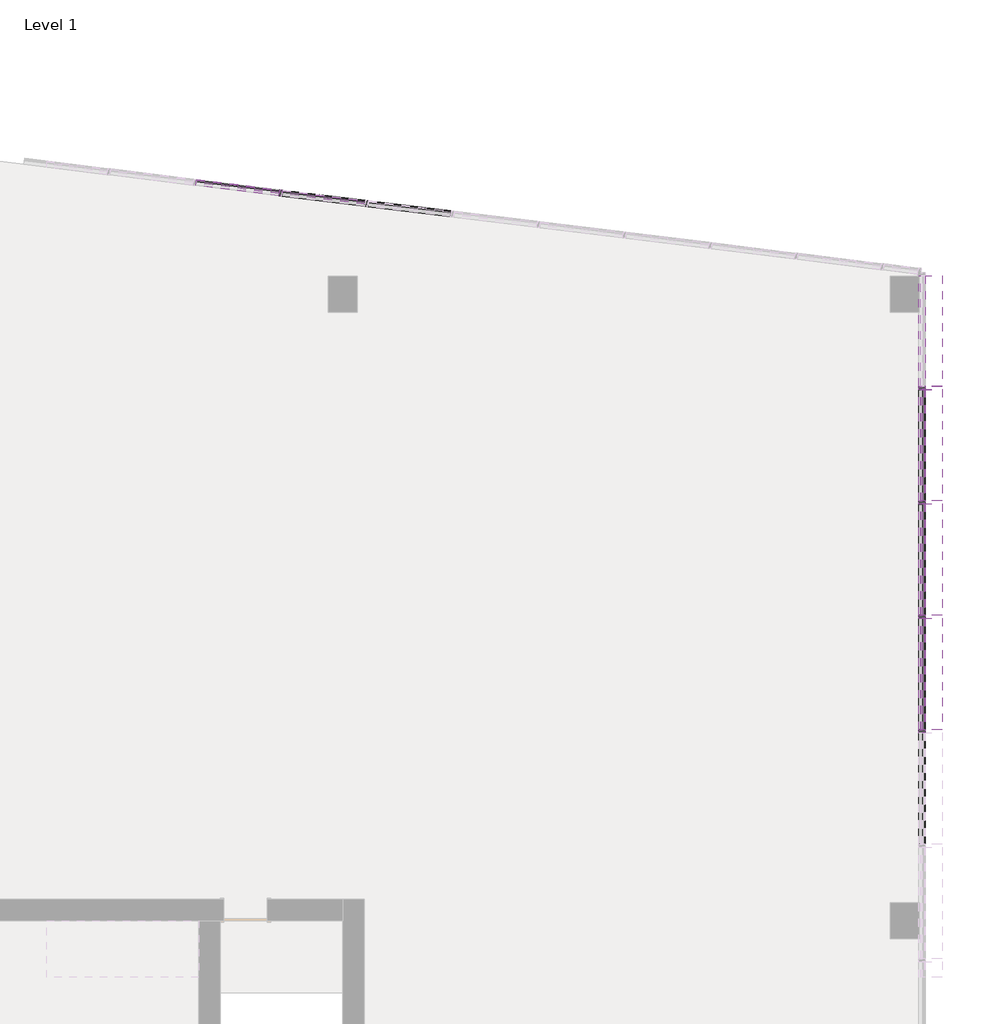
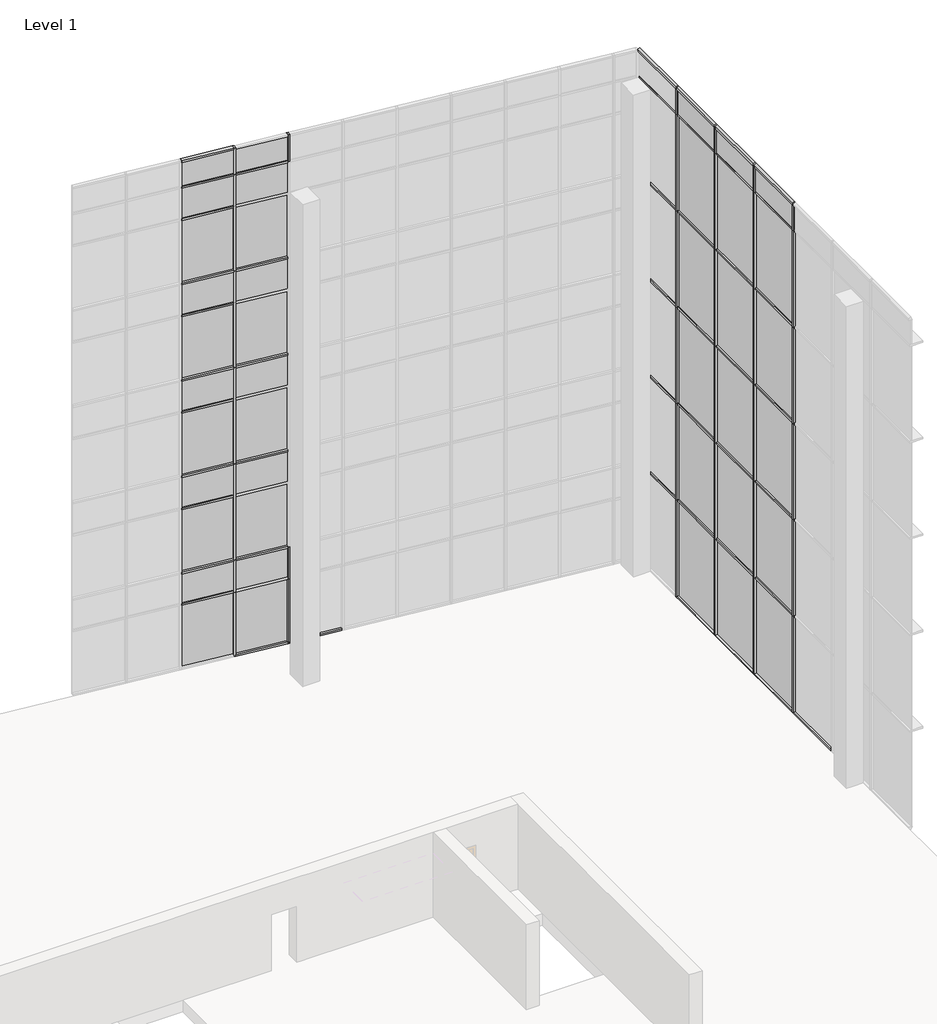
# One storey, part 20 of 23: 80 members, 40 plates.
"""IFC4 building model written with IfcOpenShell, lengths in millimetres."""

from ifc_helpers import new_model, si_unit, origin, place, context, project, spatial, transform, mapped, element, save
from components import member_4178592a, member_eccb456b, member_ad65018b, member_a26b4311, member_2b49869a, member_f92b8aa2, member_810865a4, member_f0fea5a5, member_6d5c3e5e, member_90793d7c, member_64b167af, member_9764dd38, system_panel_glazed_14c75400, system_panel_glazed_bb983545, system_panel_solid_5dfe6f83, system_panel_solid_e25e2004, system_panel_solid_b7551183, system_panel_solid_a8b18003

model = new_model("IFC4")

# Units and contexts
model_context = context("Model", 3, world=origin())
ifc_project = project(units=[si_unit("LENGTHUNIT", "METRE", prefix="MILLI")], contexts=[model_context])

# Site, building, storey
site = spatial("IfcSite", under=ifc_project)
building = spatial("IfcBuilding", under=site)
storey = spatial("IfcBuildingStorey", under=building, Name="Level 1", Elevation=0.0)

# Members
placement = place(None, origin())
member_shape = member_4178592a(model_context)
element("IfcMember", 1, ObjectType="Quad Corner Mullion : 5\" x 5\" Quad Corner", at=placement, inside=storey, context=model_context, shape_type="MappedRepresentation", body=[
    mapped(member_shape, transform((15106.8054088, 334.8243564, 19304.0), x_axis=(0.0, 0.0, 1.0), y_axis=(-1.0, 0.0, 0.0), z_axis=(0.0, -1.0, 0.0))),
])
element("IfcMember", 2, ObjectType="Quad Corner Mullion : 5\" x 5\" Quad Corner", at=placement, inside=storey, context=model_context, shape_type="MappedRepresentation", body=[
    mapped(member_shape, transform((15106.8054088, 2752.982224, 19304.0), x_axis=(0.0, 0.0, 1.0), y_axis=(-1.0, 0.0, 0.0), z_axis=(0.0, -1.0, 0.0))),
])
element("IfcMember", 3, ObjectType="Quad Corner Mullion : 5\" x 5\" Quad Corner", at=placement, inside=storey, context=model_context, shape_type="MappedRepresentation", body=[
    mapped(member_shape, transform((15106.8054088, 5171.1400916, 19304.0), x_axis=(0.0, 0.0, 1.0), y_axis=(-1.0, 0.0, 0.0), z_axis=(0.0, -1.0, 0.0))),
])
member_2_shape = member_eccb456b(model_context)
element("IfcMember", 4, ObjectType="Quad Corner Mullion : 5\" x 5\" Quad Corner", at=placement, inside=storey, context=model_context, shape_type="MappedRepresentation", body=[
    mapped(member_2_shape, transform((15106.8054088, 7589.2979592, 19304.0), x_axis=(0.0, 0.0, 1.0), y_axis=(-1.0, 0.0, 0.0), z_axis=(0.0, -1.0, 0.0))),
])
element("IfcMember", 5, ObjectType="Quad Corner Mullion : 5\" x 5\" Quad Corner", at=placement, inside=storey, context=model_context, shape_type="MappedRepresentation", body=[
    mapped(member_shape, transform((15106.8054088, 271.3243564, 0.0), x_axis=(0.0, 0.0, -1.0), y_axis=(-1.0, 0.0, 0.0), z_axis=(0.0, 1.0, 0.0))),
])
element("IfcMember", 6, ObjectType="Quad Corner Mullion : 5\" x 5\" Quad Corner", at=placement, inside=storey, context=model_context, shape_type="MappedRepresentation", body=[
    mapped(member_shape, transform((15106.8054088, 2689.482224, 0.0), x_axis=(0.0, 0.0, -1.0), y_axis=(-1.0, 0.0, 0.0), z_axis=(0.0, 1.0, 0.0))),
])
element("IfcMember", 7, ObjectType="Quad Corner Mullion : 5\" x 5\" Quad Corner", at=placement, inside=storey, context=model_context, shape_type="MappedRepresentation", body=[
    mapped(member_shape, transform((15106.8054088, 5107.6400916, 0.0), x_axis=(0.0, 0.0, -1.0), y_axis=(-1.0, 0.0, 0.0), z_axis=(0.0, 1.0, 0.0))),
])
element("IfcMember", 8, ObjectType="Quad Corner Mullion : 5\" x 5\" Quad Corner", at=placement, inside=storey, context=model_context, shape_type="MappedRepresentation", body=[
    mapped(member_shape, transform((15106.8054088, 7525.7979592, 0.0), x_axis=(0.0, 0.0, -1.0), y_axis=(-1.0, 0.0, 0.0), z_axis=(0.0, 1.0, 0.0))),
])
member_3_shape = member_ad65018b(model_context)
element("IfcMember", 9, ObjectType="Rectangular Mullion : 2.5\" x 18\" rectangular", at=placement, inside=storey, context=model_context, shape_type="MappedRepresentation", body=[
    mapped(member_3_shape, transform((15106.8054088, 7589.2979592, 3666.6228811), x_axis=(0.0, 0.0, 1.0), y_axis=(-1.0, 0.0, 0.0), z_axis=(0.0, -1.0, 0.0))),
])
element("IfcMember", 10, ObjectType="Rectangular Mullion : 2.5\" x 18\" rectangular", at=placement, inside=storey, context=model_context, shape_type="MappedRepresentation", body=[
    mapped(member_3_shape, transform((15106.8054088, 7589.2979592, 7324.2228811), x_axis=(0.0, 0.0, 1.0), y_axis=(-1.0, 0.0, 0.0), z_axis=(0.0, -1.0, 0.0))),
])
element("IfcMember", 11, ObjectType="Rectangular Mullion : 2.5\" x 18\" rectangular", at=placement, inside=storey, context=model_context, shape_type="MappedRepresentation", body=[
    mapped(member_3_shape, transform((15106.8054088, 7589.2979592, 10981.8228811), x_axis=(0.0, 0.0, 1.0), y_axis=(-1.0, 0.0, 0.0), z_axis=(0.0, -1.0, 0.0))),
])
element("IfcMember", 12, ObjectType="Rectangular Mullion : 2.5\" x 18\" rectangular", at=placement, inside=storey, context=model_context, shape_type="MappedRepresentation", body=[
    mapped(member_3_shape, transform((15106.8054088, 7589.2979592, 14639.4228811), x_axis=(0.0, 0.0, 1.0), y_axis=(-1.0, 0.0, 0.0), z_axis=(0.0, -1.0, 0.0))),
])
element("IfcMember", 13, ObjectType="Rectangular Mullion : 2.5\" x 18\" rectangular", at=placement, inside=storey, context=model_context, shape_type="MappedRepresentation", body=[
    mapped(member_3_shape, transform((15106.8054088, 7589.2979592, 18297.0228811), x_axis=(0.0, 0.0, 1.0), y_axis=(-1.0, 0.0, 0.0), z_axis=(0.0, -1.0, 0.0))),
])
member_4_shape = member_a26b4311(model_context)
element("IfcMember", 14, ObjectType="Rectangular Mullion : 2.5\" x 18\" rectangular", at=placement, inside=storey, context=model_context, shape_type="MappedRepresentation", body=[
    mapped(member_4_shape, transform((15106.8054088, 334.8243564, 3666.6228811), x_axis=(0.0, 0.0, 1.0), y_axis=(-1.0, 0.0, 0.0), z_axis=(0.0, -1.0, 0.0))),
])
element("IfcMember", 15, ObjectType="Rectangular Mullion : 2.5\" x 18\" rectangular", at=placement, inside=storey, context=model_context, shape_type="MappedRepresentation", body=[
    mapped(member_4_shape, transform((15106.8054088, 2752.982224, 3666.6228811), x_axis=(0.0, 0.0, 1.0), y_axis=(-1.0, 0.0, 0.0), z_axis=(0.0, -1.0, 0.0))),
])
element("IfcMember", 16, ObjectType="Rectangular Mullion : 2.5\" x 18\" rectangular", at=placement, inside=storey, context=model_context, shape_type="MappedRepresentation", body=[
    mapped(member_4_shape, transform((15106.8054088, 5171.1400916, 3666.6228811), x_axis=(0.0, 0.0, 1.0), y_axis=(-1.0, 0.0, 0.0), z_axis=(0.0, -1.0, 0.0))),
])
element("IfcMember", 17, ObjectType="Rectangular Mullion : 2.5\" x 18\" rectangular", at=placement, inside=storey, context=model_context, shape_type="MappedRepresentation", body=[
    mapped(member_4_shape, transform((15106.8054088, 334.8243564, 7324.2228811), x_axis=(0.0, 0.0, 1.0), y_axis=(-1.0, 0.0, 0.0), z_axis=(0.0, -1.0, 0.0))),
])
element("IfcMember", 18, ObjectType="Rectangular Mullion : 2.5\" x 18\" rectangular", at=placement, inside=storey, context=model_context, shape_type="MappedRepresentation", body=[
    mapped(member_4_shape, transform((15106.8054088, 2752.982224, 7324.2228811), x_axis=(0.0, 0.0, 1.0), y_axis=(-1.0, 0.0, 0.0), z_axis=(0.0, -1.0, 0.0))),
])
element("IfcMember", 19, ObjectType="Rectangular Mullion : 2.5\" x 18\" rectangular", at=placement, inside=storey, context=model_context, shape_type="MappedRepresentation", body=[
    mapped(member_4_shape, transform((15106.8054088, 5171.1400916, 7324.2228811), x_axis=(0.0, 0.0, 1.0), y_axis=(-1.0, 0.0, 0.0), z_axis=(0.0, -1.0, 0.0))),
])
element("IfcMember", 20, ObjectType="Rectangular Mullion : 2.5\" x 18\" rectangular", at=placement, inside=storey, context=model_context, shape_type="MappedRepresentation", body=[
    mapped(member_4_shape, transform((15106.8054088, 334.8243564, 10981.8228811), x_axis=(0.0, 0.0, 1.0), y_axis=(-1.0, 0.0, 0.0), z_axis=(0.0, -1.0, 0.0))),
])
element("IfcMember", 21, ObjectType="Rectangular Mullion : 2.5\" x 18\" rectangular", at=placement, inside=storey, context=model_context, shape_type="MappedRepresentation", body=[
    mapped(member_4_shape, transform((15106.8054088, 2752.982224, 10981.8228811), x_axis=(0.0, 0.0, 1.0), y_axis=(-1.0, 0.0, 0.0), z_axis=(0.0, -1.0, 0.0))),
])
element("IfcMember", 22, ObjectType="Rectangular Mullion : 2.5\" x 18\" rectangular", at=placement, inside=storey, context=model_context, shape_type="MappedRepresentation", body=[
    mapped(member_4_shape, transform((15106.8054088, 5171.1400916, 10981.8228811), x_axis=(0.0, 0.0, 1.0), y_axis=(-1.0, 0.0, 0.0), z_axis=(0.0, -1.0, 0.0))),
])
element("IfcMember", 23, ObjectType="Rectangular Mullion : 2.5\" x 18\" rectangular", at=placement, inside=storey, context=model_context, shape_type="MappedRepresentation", body=[
    mapped(member_4_shape, transform((15106.8054088, 334.8243564, 14639.4228811), x_axis=(0.0, 0.0, 1.0), y_axis=(-1.0, 0.0, 0.0), z_axis=(0.0, -1.0, 0.0))),
])
element("IfcMember", 24, ObjectType="Rectangular Mullion : 2.5\" x 18\" rectangular", at=placement, inside=storey, context=model_context, shape_type="MappedRepresentation", body=[
    mapped(member_4_shape, transform((15106.8054088, 2752.982224, 14639.4228811), x_axis=(0.0, 0.0, 1.0), y_axis=(-1.0, 0.0, 0.0), z_axis=(0.0, -1.0, 0.0))),
])
element("IfcMember", 25, ObjectType="Rectangular Mullion : 2.5\" x 18\" rectangular", at=placement, inside=storey, context=model_context, shape_type="MappedRepresentation", body=[
    mapped(member_4_shape, transform((15106.8054088, 5171.1400916, 14639.4228811), x_axis=(0.0, 0.0, 1.0), y_axis=(-1.0, 0.0, 0.0), z_axis=(0.0, -1.0, 0.0))),
])
element("IfcMember", 26, ObjectType="Rectangular Mullion : 2.5\" x 18\" rectangular", at=placement, inside=storey, context=model_context, shape_type="MappedRepresentation", body=[
    mapped(member_4_shape, transform((15106.8054088, 334.8243564, 18297.0228811), x_axis=(0.0, 0.0, 1.0), y_axis=(-1.0, 0.0, 0.0), z_axis=(0.0, -1.0, 0.0))),
])
element("IfcMember", 27, ObjectType="Rectangular Mullion : 2.5\" x 18\" rectangular", at=placement, inside=storey, context=model_context, shape_type="MappedRepresentation", body=[
    mapped(member_4_shape, transform((15106.8054088, 2752.982224, 18297.0228811), x_axis=(0.0, 0.0, 1.0), y_axis=(-1.0, 0.0, 0.0), z_axis=(0.0, -1.0, 0.0))),
])
element("IfcMember", 28, ObjectType="Rectangular Mullion : 2.5\" x 18\" rectangular", at=placement, inside=storey, context=model_context, shape_type="MappedRepresentation", body=[
    mapped(member_4_shape, transform((15106.8054088, 5171.1400916, 18297.0228811), x_axis=(0.0, 0.0, 1.0), y_axis=(-1.0, 0.0, 0.0), z_axis=(0.0, -1.0, 0.0))),
])
member_5_shape = member_2b49869a(model_context)
element("IfcMember", 29, ObjectType="Rectangular Mullion : 2.5\" x 5\" rectangular", at=placement, inside=storey, context=model_context, shape_type="MappedRepresentation", body=[
    mapped(member_5_shape, transform((3375.3424535, 11456.9212356, 2438.4), x_axis=(0.9925461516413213, -0.12186934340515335, 0.0), y_axis=(-0.12186934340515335, -0.9925461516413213, 0.0), z_axis=(0.0, 0.0, -1.0))),
])
element("IfcMember", 30, ObjectType="Rectangular Mullion : 2.5\" x 5\" rectangular", at=placement, inside=storey, context=model_context, shape_type="MappedRepresentation", body=[
    mapped(member_5_shape, transform((1560.1740514, 11679.7958909, 2438.4), x_axis=(0.9925461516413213, -0.12186934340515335, 0.0), y_axis=(-0.12186934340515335, -0.9925461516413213, 0.0), z_axis=(0.0, 0.0, -1.0))),
])
member_6_shape = member_f92b8aa2(model_context)
element("IfcMember", 31, ObjectType="Rectangular Mullion : 2.5\" x 5\" rectangular", at=placement, inside=storey, context=model_context, shape_type="MappedRepresentation", body=[
    mapped(member_6_shape, transform((3375.3424535, 11456.9212356, 18288.0), x_axis=(0.9925461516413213, -0.12186934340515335, 0.0), y_axis=(-0.12186934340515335, -0.9925461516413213, 0.0), z_axis=(0.0, 0.0, -1.0))),
])
element("IfcMember", 32, ObjectType="Rectangular Mullion : 2.5\" x 5\" rectangular", at=placement, inside=storey, context=model_context, shape_type="MappedRepresentation", body=[
    mapped(member_6_shape, transform((1560.1740514, 11679.7958909, 18288.0), x_axis=(0.9925461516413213, -0.12186934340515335, 0.0), y_axis=(-0.12186934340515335, -0.9925461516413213, 0.0), z_axis=(0.0, 0.0, -1.0))),
])
member_7_shape = member_810865a4(model_context)
element("IfcMember", 33, ObjectType="Rectangular Mullion : 2.5\" x 5\" rectangular", at=placement, inside=storey, context=model_context, shape_type="MappedRepresentation", body=[
    mapped(member_7_shape, transform((1560.1740514, 11679.7958909, 14630.4), x_axis=(0.9925461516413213, -0.12186934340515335, 0.0), y_axis=(-0.12186934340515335, -0.9925461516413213, 0.0), z_axis=(0.0, 0.0, -1.0))),
])
element("IfcMember", 34, ObjectType="Rectangular Mullion : 2.5\" x 5\" rectangular", at=placement, inside=storey, context=model_context, shape_type="MappedRepresentation", body=[
    mapped(member_7_shape, transform((1560.1740514, 11679.7958909, 10972.8), x_axis=(0.9925461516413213, -0.12186934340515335, 0.0), y_axis=(-0.12186934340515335, -0.9925461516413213, 0.0), z_axis=(0.0, 0.0, -1.0))),
])
element("IfcMember", 35, ObjectType="Rectangular Mullion : 2.5\" x 5\" rectangular", at=placement, inside=storey, context=model_context, shape_type="MappedRepresentation", body=[
    mapped(member_7_shape, transform((1560.1740514, 11679.7958909, 7315.2), x_axis=(0.9925461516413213, -0.12186934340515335, 0.0), y_axis=(-0.12186934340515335, -0.9925461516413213, 0.0), z_axis=(0.0, 0.0, -1.0))),
])
element("IfcMember", 36, ObjectType="Rectangular Mullion : 2.5\" x 5\" rectangular", at=placement, inside=storey, context=model_context, shape_type="MappedRepresentation", body=[
    mapped(member_7_shape, transform((1560.1740514, 11679.7958909, 3657.6), x_axis=(0.9925461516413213, -0.12186934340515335, 0.0), y_axis=(-0.12186934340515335, -0.9925461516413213, 0.0), z_axis=(0.0, 0.0, -1.0))),
])
element("IfcMember", 37, ObjectType="Rectangular Mullion : 2.5\" x 5\" rectangular", at=placement, inside=storey, context=model_context, shape_type="MappedRepresentation", body=[
    mapped(member_7_shape, transform((15106.8054088, 303.0743564, 3666.6228811), x_axis=(0.0, -1.0, 0.0), y_axis=(-1.0, 0.0, 0.0), z_axis=(0.0, 0.0, -1.0))),
])
element("IfcMember", 38, ObjectType="Rectangular Mullion : 2.5\" x 5\" rectangular", at=placement, inside=storey, context=model_context, shape_type="MappedRepresentation", body=[
    mapped(member_7_shape, transform((15106.8054088, 5139.3900916, 3666.6228811), x_axis=(0.0, -1.0, 0.0), y_axis=(-1.0, 0.0, 0.0), z_axis=(0.0, 0.0, -1.0))),
])
element("IfcMember", 39, ObjectType="Rectangular Mullion : 2.5\" x 5\" rectangular", at=placement, inside=storey, context=model_context, shape_type="MappedRepresentation", body=[
    mapped(member_7_shape, transform((15106.8054088, 7557.5479592, 3666.6228811), x_axis=(0.0, -1.0, 0.0), y_axis=(-1.0, 0.0, 0.0), z_axis=(0.0, 0.0, -1.0))),
])
element("IfcMember", 40, ObjectType="Rectangular Mullion : 2.5\" x 5\" rectangular", at=placement, inside=storey, context=model_context, shape_type="MappedRepresentation", body=[
    mapped(member_7_shape, transform((15106.8054088, 2721.232224, 3666.6228811), x_axis=(0.0, -1.0, 0.0), y_axis=(-1.0, 0.0, 0.0), z_axis=(0.0, 0.0, -1.0))),
])
element("IfcMember", 41, ObjectType="Rectangular Mullion : 2.5\" x 5\" rectangular", at=placement, inside=storey, context=model_context, shape_type="MappedRepresentation", body=[
    mapped(member_7_shape, transform((15106.8054088, 303.0743564, 7324.2228811), x_axis=(0.0, -1.0, 0.0), y_axis=(-1.0, 0.0, 0.0), z_axis=(0.0, 0.0, -1.0))),
])
element("IfcMember", 42, ObjectType="Rectangular Mullion : 2.5\" x 5\" rectangular", at=placement, inside=storey, context=model_context, shape_type="MappedRepresentation", body=[
    mapped(member_7_shape, transform((15106.8054088, 5139.3900916, 7324.2228811), x_axis=(0.0, -1.0, 0.0), y_axis=(-1.0, 0.0, 0.0), z_axis=(0.0, 0.0, -1.0))),
])
element("IfcMember", 43, ObjectType="Rectangular Mullion : 2.5\" x 5\" rectangular", at=placement, inside=storey, context=model_context, shape_type="MappedRepresentation", body=[
    mapped(member_7_shape, transform((15106.8054088, 7557.5479592, 7324.2228811), x_axis=(0.0, -1.0, 0.0), y_axis=(-1.0, 0.0, 0.0), z_axis=(0.0, 0.0, -1.0))),
])
element("IfcMember", 44, ObjectType="Rectangular Mullion : 2.5\" x 5\" rectangular", at=placement, inside=storey, context=model_context, shape_type="MappedRepresentation", body=[
    mapped(member_7_shape, transform((15106.8054088, 2721.232224, 7324.2228811), x_axis=(0.0, -1.0, 0.0), y_axis=(-1.0, 0.0, 0.0), z_axis=(0.0, 0.0, -1.0))),
])
element("IfcMember", 45, ObjectType="Rectangular Mullion : 2.5\" x 5\" rectangular", at=placement, inside=storey, context=model_context, shape_type="MappedRepresentation", body=[
    mapped(member_7_shape, transform((15106.8054088, 303.0743564, 10981.8228811), x_axis=(0.0, -1.0, 0.0), y_axis=(-1.0, 0.0, 0.0), z_axis=(0.0, 0.0, -1.0))),
])
element("IfcMember", 46, ObjectType="Rectangular Mullion : 2.5\" x 5\" rectangular", at=placement, inside=storey, context=model_context, shape_type="MappedRepresentation", body=[
    mapped(member_7_shape, transform((15106.8054088, 5139.3900916, 10981.8228811), x_axis=(0.0, -1.0, 0.0), y_axis=(-1.0, 0.0, 0.0), z_axis=(0.0, 0.0, -1.0))),
])
element("IfcMember", 47, ObjectType="Rectangular Mullion : 2.5\" x 5\" rectangular", at=placement, inside=storey, context=model_context, shape_type="MappedRepresentation", body=[
    mapped(member_7_shape, transform((15106.8054088, 7557.5479592, 10981.8228811), x_axis=(0.0, -1.0, 0.0), y_axis=(-1.0, 0.0, 0.0), z_axis=(0.0, 0.0, -1.0))),
])
element("IfcMember", 48, ObjectType="Rectangular Mullion : 2.5\" x 5\" rectangular", at=placement, inside=storey, context=model_context, shape_type="MappedRepresentation", body=[
    mapped(member_7_shape, transform((15106.8054088, 2721.232224, 10981.8228811), x_axis=(0.0, -1.0, 0.0), y_axis=(-1.0, 0.0, 0.0), z_axis=(0.0, 0.0, -1.0))),
])
element("IfcMember", 49, ObjectType="Rectangular Mullion : 2.5\" x 5\" rectangular", at=placement, inside=storey, context=model_context, shape_type="MappedRepresentation", body=[
    mapped(member_7_shape, transform((15106.8054088, 303.0743564, 14639.4228811), x_axis=(0.0, -1.0, 0.0), y_axis=(-1.0, 0.0, 0.0), z_axis=(0.0, 0.0, -1.0))),
])
element("IfcMember", 50, ObjectType="Rectangular Mullion : 2.5\" x 5\" rectangular", at=placement, inside=storey, context=model_context, shape_type="MappedRepresentation", body=[
    mapped(member_7_shape, transform((15106.8054088, 5139.3900916, 14639.4228811), x_axis=(0.0, -1.0, 0.0), y_axis=(-1.0, 0.0, 0.0), z_axis=(0.0, 0.0, -1.0))),
])
element("IfcMember", 51, ObjectType="Rectangular Mullion : 2.5\" x 5\" rectangular", at=placement, inside=storey, context=model_context, shape_type="MappedRepresentation", body=[
    mapped(member_7_shape, transform((15106.8054088, 7557.5479592, 14639.4228811), x_axis=(0.0, -1.0, 0.0), y_axis=(-1.0, 0.0, 0.0), z_axis=(0.0, 0.0, -1.0))),
])
element("IfcMember", 52, ObjectType="Rectangular Mullion : 2.5\" x 5\" rectangular", at=placement, inside=storey, context=model_context, shape_type="MappedRepresentation", body=[
    mapped(member_7_shape, transform((15106.8054088, 2721.232224, 14639.4228811), x_axis=(0.0, -1.0, 0.0), y_axis=(-1.0, 0.0, 0.0), z_axis=(0.0, 0.0, -1.0))),
])
member_8_shape = member_f0fea5a5(model_context)
element("IfcMember", 53, ObjectType="Rectangular Mullion : 2.5\" x 5\" rectangular", at=placement, inside=storey, context=model_context, shape_type="MappedRepresentation", body=[
    mapped(member_8_shape, transform((3375.3424535, 11456.9212356, 0.0), x_axis=(0.9925461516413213, -0.12186934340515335, 0.0), y_axis=(-0.12186934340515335, -0.9925461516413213, 0.0), z_axis=(0.0, 0.0, -1.0))),
])
element("IfcMember", 54, ObjectType="Rectangular Mullion : 2.5\" x 5\" rectangular", at=placement, inside=storey, context=model_context, shape_type="MappedRepresentation", body=[
    mapped(member_8_shape, transform((1560.1740514, 11679.7958909, 0.0), x_axis=(0.9925461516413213, -0.12186934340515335, 0.0), y_axis=(-0.12186934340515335, -0.9925461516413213, 0.0), z_axis=(0.0, 0.0, -1.0))),
])
member_9_shape = member_6d5c3e5e(model_context)
element("IfcMember", 55, ObjectType="Rectangular Mullion : 2.5\" x 5\" rectangular", at=placement, inside=storey, context=model_context, shape_type="MappedRepresentation", body=[
    mapped(member_9_shape, transform((1528.6607111, 11683.6652425, 19304.0), x_axis=(0.0, 0.0, 1.0), y_axis=(-0.12186934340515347, -0.9925461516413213, 0.0), z_axis=(0.9925461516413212, -0.12186934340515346, 0.0))),
])
member_10_shape = member_90793d7c(model_context)
element("IfcMember", 56, ObjectType="Rectangular Mullion : 2.5\" x 5\" rectangular", at=placement, inside=storey, context=model_context, shape_type="MappedRepresentation", body=[
    mapped(member_10_shape, transform((15106.8054088, 303.0743564, 0.0), x_axis=(0.0, -1.0, 0.0), y_axis=(-1.0, 0.0, 0.0), z_axis=(0.0, 0.0, -1.0))),
])
element("IfcMember", 57, ObjectType="Rectangular Mullion : 2.5\" x 5\" rectangular", at=placement, inside=storey, context=model_context, shape_type="MappedRepresentation", body=[
    mapped(member_10_shape, transform((15106.8054088, 5139.3900916, 0.0), x_axis=(0.0, -1.0, 0.0), y_axis=(-1.0, 0.0, 0.0), z_axis=(0.0, 0.0, -1.0))),
])
element("IfcMember", 58, ObjectType="Rectangular Mullion : 2.5\" x 5\" rectangular", at=placement, inside=storey, context=model_context, shape_type="MappedRepresentation", body=[
    mapped(member_10_shape, transform((15106.8054088, 7557.5479592, 0.0), x_axis=(0.0, -1.0, 0.0), y_axis=(-1.0, 0.0, 0.0), z_axis=(0.0, 0.0, -1.0))),
])
element("IfcMember", 59, ObjectType="Rectangular Mullion : 2.5\" x 5\" rectangular", at=placement, inside=storey, context=model_context, shape_type="MappedRepresentation", body=[
    mapped(member_10_shape, transform((15106.8054088, 2721.232224, 0.0), x_axis=(0.0, -1.0, 0.0), y_axis=(-1.0, 0.0, 0.0), z_axis=(0.0, 0.0, -1.0))),
])
member_11_shape = member_64b167af(model_context)
element("IfcMember", 60, ObjectType="Rectangular Mullion : 2.5\" x 5\" rectangular", at=placement, inside=storey, context=model_context, shape_type="MappedRepresentation", body=[
    mapped(member_11_shape, transform((15106.8054088, 303.0743564, 18297.0228811), x_axis=(0.0, -1.0, 0.0), y_axis=(-1.0, 0.0, 0.0), z_axis=(0.0, 0.0, -1.0))),
])
element("IfcMember", 61, ObjectType="Rectangular Mullion : 2.5\" x 5\" rectangular", at=placement, inside=storey, context=model_context, shape_type="MappedRepresentation", body=[
    mapped(member_11_shape, transform((15106.8054088, 5139.3900916, 18297.0228811), x_axis=(0.0, -1.0, 0.0), y_axis=(-1.0, 0.0, 0.0), z_axis=(0.0, 0.0, -1.0))),
])
element("IfcMember", 62, ObjectType="Rectangular Mullion : 2.5\" x 5\" rectangular", at=placement, inside=storey, context=model_context, shape_type="MappedRepresentation", body=[
    mapped(member_11_shape, transform((15106.8054088, 7557.5479592, 18297.0228811), x_axis=(0.0, -1.0, 0.0), y_axis=(-1.0, 0.0, 0.0), z_axis=(0.0, 0.0, -1.0))),
])
element("IfcMember", 63, ObjectType="Rectangular Mullion : 2.5\" x 5\" rectangular", at=placement, inside=storey, context=model_context, shape_type="MappedRepresentation", body=[
    mapped(member_11_shape, transform((15106.8054088, 2721.232224, 18297.0228811), x_axis=(0.0, -1.0, 0.0), y_axis=(-1.0, 0.0, 0.0), z_axis=(0.0, 0.0, -1.0))),
])
member_12_shape = member_9764dd38(model_context)
element("IfcMember", 64, ObjectType="Rectangular Mullion : 2.5\" x 5\" rectangular", at=placement, inside=storey, context=model_context, shape_type="MappedRepresentation", body=[
    mapped(member_12_shape, transform((1528.6607111, 11683.6652425, 17068.8), x_axis=(0.0, 0.0, 1.0), y_axis=(-0.1218693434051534, -0.9925461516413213, 0.0), z_axis=(0.9925461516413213, -0.1218693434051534, 0.0))),
])
element("IfcMember", 65, ObjectType="Rectangular Mullion : 2.5\" x 5\" rectangular", at=placement, inside=storey, context=model_context, shape_type="MappedRepresentation", body=[
    mapped(member_12_shape, transform((1528.6607111, 11683.6652425, 13411.2), x_axis=(0.0, 0.0, 1.0), y_axis=(-0.1218693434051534, -0.9925461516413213, 0.0), z_axis=(0.9925461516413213, -0.1218693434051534, 0.0))),
])
element("IfcMember", 66, ObjectType="Rectangular Mullion : 2.5\" x 5\" rectangular", at=placement, inside=storey, context=model_context, shape_type="MappedRepresentation", body=[
    mapped(member_12_shape, transform((1528.6607111, 11683.6652425, 9753.6), x_axis=(0.0, 0.0, 1.0), y_axis=(-0.1218693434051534, -0.9925461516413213, 0.0), z_axis=(0.9925461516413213, -0.1218693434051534, 0.0))),
])
element("IfcMember", 67, ObjectType="Rectangular Mullion : 2.5\" x 5\" rectangular", at=placement, inside=storey, context=model_context, shape_type="MappedRepresentation", body=[
    mapped(member_12_shape, transform((1528.6607111, 11683.6652425, 6096.0), x_axis=(0.0, 0.0, 1.0), y_axis=(-0.1218693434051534, -0.9925461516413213, 0.0), z_axis=(0.9925461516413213, -0.1218693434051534, 0.0))),
])
element("IfcMember", 68, ObjectType="Rectangular Mullion : 2.5\" x 5\" rectangular", at=placement, inside=storey, context=model_context, shape_type="MappedRepresentation", body=[
    mapped(member_12_shape, transform((1528.6607111, 11683.6652425, 2470.15), x_axis=(0.0, 0.0, 1.0), y_axis=(-0.1218693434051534, -0.9925461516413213, 0.0), z_axis=(0.9925461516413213, -0.1218693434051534, 0.0))),
])
element("IfcMember", 69, ObjectType="Rectangular Mullion : 2.5\" x 5\" rectangular", at=placement, inside=storey, context=model_context, shape_type="MappedRepresentation", body=[
    mapped(member_9_shape, transform((3406.8557938, 11453.051884, 0.0), x_axis=(0.0, 0.0, -1.0), y_axis=(-0.12186934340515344, -0.9925461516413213, 0.0), z_axis=(-0.9925461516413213, 0.12186934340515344, 0.0))),
])
element("IfcMember", 70, ObjectType="Rectangular Mullion : 2.5\" x 5\" rectangular", at=placement, inside=storey, context=model_context, shape_type="MappedRepresentation", body=[
    mapped(member_9_shape, transform((1591.6873917, 11675.9265392, 0.0), x_axis=(0.0, 0.0, -1.0), y_axis=(-0.12186934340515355, -0.9925461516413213, 0.0), z_axis=(-0.9925461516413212, 0.12186934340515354, 0.0))),
])
element("IfcMember", 71, ObjectType="Rectangular Mullion : 2.5\" x 5\" rectangular", at=placement, inside=storey, context=model_context, shape_type="MappedRepresentation", body=[
    mapped(member_12_shape, transform((3343.8291132, 11460.7905873, 3657.6), x_axis=(0.0, 0.0, 1.0), y_axis=(-0.12186934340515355, -0.9925461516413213, 0.0), z_axis=(0.9925461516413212, -0.12186934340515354, 0.0))),
])
element("IfcMember", 72, ObjectType="Rectangular Mullion : 2.5\" x 5\" rectangular", at=placement, inside=storey, context=model_context, shape_type="MappedRepresentation", body=[
    mapped(member_12_shape, transform((1528.6607111, 11683.6652425, 3657.6), x_axis=(0.0, 0.0, 1.0), y_axis=(-0.12186934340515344, -0.9925461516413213, 0.0), z_axis=(0.9925461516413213, -0.12186934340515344, 0.0))),
])
element("IfcMember", 73, ObjectType="Rectangular Mullion : 2.5\" x 5\" rectangular", at=placement, inside=storey, context=model_context, shape_type="MappedRepresentation", body=[
    mapped(member_12_shape, transform((3343.8291132, 11460.7905873, 10972.8), x_axis=(0.0, 0.0, 1.0), y_axis=(-0.12186934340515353, -0.9925461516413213, 0.0), z_axis=(0.9925461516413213, -0.12186934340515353, 0.0))),
])
element("IfcMember", 74, ObjectType="Rectangular Mullion : 2.5\" x 5\" rectangular", at=placement, inside=storey, context=model_context, shape_type="MappedRepresentation", body=[
    mapped(member_12_shape, transform((1528.6607111, 11683.6652425, 10972.8), x_axis=(0.0, 0.0, 1.0), y_axis=(-0.12186934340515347, -0.9925461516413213, 0.0), z_axis=(0.9925461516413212, -0.12186934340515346, 0.0))),
])
element("IfcMember", 75, ObjectType="Rectangular Mullion : 2.5\" x 5\" rectangular", at=placement, inside=storey, context=model_context, shape_type="MappedRepresentation", body=[
    mapped(member_12_shape, transform((3343.8291132, 11460.7905873, 14630.4), x_axis=(0.0, 0.0, 1.0), y_axis=(-0.12186934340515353, -0.9925461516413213, 0.0), z_axis=(0.9925461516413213, -0.12186934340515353, 0.0))),
])
element("IfcMember", 76, ObjectType="Rectangular Mullion : 2.5\" x 5\" rectangular", at=placement, inside=storey, context=model_context, shape_type="MappedRepresentation", body=[
    mapped(member_12_shape, transform((1528.6607111, 11683.6652425, 14630.4), x_axis=(0.0, 0.0, 1.0), y_axis=(-0.12186934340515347, -0.9925461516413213, 0.0), z_axis=(0.9925461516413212, -0.12186934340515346, 0.0))),
])
element("IfcMember", 77, ObjectType="Rectangular Mullion : 2.5\" x 5\" rectangular", at=placement, inside=storey, context=model_context, shape_type="MappedRepresentation", body=[
    mapped(member_12_shape, transform((3343.8291132, 11460.7905873, 7315.2), x_axis=(0.0, 0.0, 1.0), y_axis=(-0.12186934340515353, -0.9925461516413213, 0.0), z_axis=(0.9925461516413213, -0.12186934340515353, 0.0))),
])
element("IfcMember", 78, ObjectType="Rectangular Mullion : 2.5\" x 5\" rectangular", at=placement, inside=storey, context=model_context, shape_type="MappedRepresentation", body=[
    mapped(member_12_shape, transform((1528.6607111, 11683.6652425, 7315.2), x_axis=(0.0, 0.0, 1.0), y_axis=(-0.12186934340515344, -0.9925461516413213, 0.0), z_axis=(0.9925461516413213, -0.12186934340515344, 0.0))),
])
element("IfcMember", 79, ObjectType="Rectangular Mullion : 2.5\" x 5\" rectangular", at=placement, inside=storey, context=model_context, shape_type="MappedRepresentation", body=[
    mapped(member_12_shape, transform((3343.8291132, 11460.7905873, 18288.0), x_axis=(0.0, 0.0, 1.0), y_axis=(-0.12186934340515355, -0.9925461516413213, 0.0), z_axis=(0.9925461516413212, -0.12186934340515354, 0.0))),
])
element("IfcMember", 80, ObjectType="Rectangular Mullion : 2.5\" x 5\" rectangular", at=placement, inside=storey, context=model_context, shape_type="MappedRepresentation", body=[
    mapped(member_12_shape, transform((1528.6607111, 11683.6652425, 18288.0), x_axis=(0.0, 0.0, 1.0), y_axis=(-0.12186934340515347, -0.9925461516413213, 0.0), z_axis=(0.9925461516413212, -0.12186934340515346, 0.0))),
])

# Plates
system_panel_glazed_shape = system_panel_glazed_14c75400(model_context)
element("IfcPlate", 81, ObjectType="System Panel : Glazed", at=placement, inside=storey, context=model_context, shape_type="MappedRepresentation", body=[
    mapped(system_panel_glazed_shape, transform((2467.7582524, 11568.3585633, 14662.15), x_axis=(0.9925461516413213, -0.12186934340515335, 0.0), y_axis=(0.12186934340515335, 0.9925461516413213, 0.0), z_axis=(0.0, 0.0, 1.0))),
])
element("IfcPlate", 82, ObjectType="System Panel : Glazed", at=placement, inside=storey, context=model_context, shape_type="MappedRepresentation", body=[
    mapped(system_panel_glazed_shape, transform((652.5898503, 11791.2332185, 14662.15), x_axis=(0.9925461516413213, -0.12186934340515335, 0.0), y_axis=(0.12186934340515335, 0.9925461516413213, 0.0), z_axis=(0.0, 0.0, 1.0))),
])
element("IfcPlate", 83, ObjectType="System Panel : Glazed", at=placement, inside=storey, context=model_context, shape_type="MappedRepresentation", body=[
    mapped(system_panel_glazed_shape, transform((2467.7582524, 11568.3585633, 11004.55), x_axis=(0.9925461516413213, -0.12186934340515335, 0.0), y_axis=(0.12186934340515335, 0.9925461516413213, 0.0), z_axis=(0.0, 0.0, 1.0))),
])
element("IfcPlate", 84, ObjectType="System Panel : Glazed", at=placement, inside=storey, context=model_context, shape_type="MappedRepresentation", body=[
    mapped(system_panel_glazed_shape, transform((652.5898503, 11791.2332185, 11004.55), x_axis=(0.9925461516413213, -0.12186934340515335, 0.0), y_axis=(0.12186934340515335, 0.9925461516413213, 0.0), z_axis=(0.0, 0.0, 1.0))),
])
element("IfcPlate", 85, ObjectType="System Panel : Glazed", at=placement, inside=storey, context=model_context, shape_type="MappedRepresentation", body=[
    mapped(system_panel_glazed_shape, transform((2467.7582524, 11568.3585633, 7346.95), x_axis=(0.9925461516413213, -0.12186934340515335, 0.0), y_axis=(0.12186934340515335, 0.9925461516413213, 0.0), z_axis=(0.0, 0.0, 1.0))),
])
element("IfcPlate", 86, ObjectType="System Panel : Glazed", at=placement, inside=storey, context=model_context, shape_type="MappedRepresentation", body=[
    mapped(system_panel_glazed_shape, transform((652.5898503, 11791.2332185, 7346.95), x_axis=(0.9925461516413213, -0.12186934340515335, 0.0), y_axis=(0.12186934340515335, 0.9925461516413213, 0.0), z_axis=(0.0, 0.0, 1.0))),
])
element("IfcPlate", 87, ObjectType="System Panel : Glazed", at=placement, inside=storey, context=model_context, shape_type="MappedRepresentation", body=[
    mapped(system_panel_glazed_shape, transform((2467.7582524, 11568.3585633, 3689.35), x_axis=(0.9925461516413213, -0.12186934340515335, 0.0), y_axis=(0.12186934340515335, 0.9925461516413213, 0.0), z_axis=(0.0, 0.0, 1.0))),
])
element("IfcPlate", 88, ObjectType="System Panel : Glazed", at=placement, inside=storey, context=model_context, shape_type="MappedRepresentation", body=[
    mapped(system_panel_glazed_shape, transform((652.5898503, 11791.2332185, 3689.35), x_axis=(0.9925461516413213, -0.12186934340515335, 0.0), y_axis=(0.12186934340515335, 0.9925461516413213, 0.0), z_axis=(0.0, 0.0, 1.0))),
])
element("IfcPlate", 89, ObjectType="System Panel : Glazed", at=placement, inside=storey, context=model_context, shape_type="MappedRepresentation", body=[
    mapped(system_panel_glazed_shape, transform((2467.7582524, 11568.3585633, 63.5), x_axis=(0.9925461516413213, -0.12186934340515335, 0.0), y_axis=(0.12186934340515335, 0.9925461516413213, 0.0), z_axis=(0.0, 0.0, 1.0))),
])
element("IfcPlate", 90, ObjectType="System Panel : Glazed", at=placement, inside=storey, context=model_context, shape_type="MappedRepresentation", body=[
    mapped(system_panel_glazed_shape, transform((652.5898503, 11791.2332185, 63.5), x_axis=(0.9925461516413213, -0.12186934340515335, 0.0), y_axis=(0.12186934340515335, 0.9925461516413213, 0.0), z_axis=(0.0, 0.0, 1.0))),
])
system_panel_glazed_2_shape = system_panel_glazed_bb983545(model_context)
element("IfcPlate", 91, ObjectType="System Panel : Glazed", at=placement, inside=storey, context=model_context, shape_type="MappedRepresentation", body=[
    mapped(system_panel_glazed_2_shape, transform((15106.8054088, 6348.4690254, 40.7728811), x_axis=(0.0, -1.0, 0.0), y_axis=(1.0, 0.0, 0.0), z_axis=(0.0, 0.0, 1.0))),
])
element("IfcPlate", 92, ObjectType="System Panel : Glazed", at=placement, inside=storey, context=model_context, shape_type="MappedRepresentation", body=[
    mapped(system_panel_glazed_2_shape, transform((15106.8054088, 6348.4690254, 3698.3728811), x_axis=(0.0, -1.0, 0.0), y_axis=(1.0, 0.0, 0.0), z_axis=(0.0, 0.0, 1.0))),
])
element("IfcPlate", 93, ObjectType="System Panel : Glazed", at=placement, inside=storey, context=model_context, shape_type="MappedRepresentation", body=[
    mapped(system_panel_glazed_2_shape, transform((15106.8054088, 6348.4690254, 7355.9728811), x_axis=(0.0, -1.0, 0.0), y_axis=(1.0, 0.0, 0.0), z_axis=(0.0, 0.0, 1.0))),
])
element("IfcPlate", 94, ObjectType="System Panel : Glazed", at=placement, inside=storey, context=model_context, shape_type="MappedRepresentation", body=[
    mapped(system_panel_glazed_2_shape, transform((15106.8054088, 6348.4690254, 11013.5728811), x_axis=(0.0, -1.0, 0.0), y_axis=(1.0, 0.0, 0.0), z_axis=(0.0, 0.0, 1.0))),
])
element("IfcPlate", 95, ObjectType="System Panel : Glazed", at=placement, inside=storey, context=model_context, shape_type="MappedRepresentation", body=[
    mapped(system_panel_glazed_2_shape, transform((15106.8054088, 6348.4690254, 14671.1728811), x_axis=(0.0, -1.0, 0.0), y_axis=(1.0, 0.0, 0.0), z_axis=(0.0, 0.0, 1.0))),
])
element("IfcPlate", 96, ObjectType="System Panel : Glazed", at=placement, inside=storey, context=model_context, shape_type="MappedRepresentation", body=[
    mapped(system_panel_glazed_2_shape, transform((15106.8054088, 3930.3111578, 40.7728811), x_axis=(0.0, -1.0, 0.0), y_axis=(1.0, 0.0, 0.0), z_axis=(0.0, 0.0, 1.0))),
])
element("IfcPlate", 97, ObjectType="System Panel : Glazed", at=placement, inside=storey, context=model_context, shape_type="MappedRepresentation", body=[
    mapped(system_panel_glazed_2_shape, transform((15106.8054088, 3930.3111578, 3698.3728811), x_axis=(0.0, -1.0, 0.0), y_axis=(1.0, 0.0, 0.0), z_axis=(0.0, 0.0, 1.0))),
])
element("IfcPlate", 98, ObjectType="System Panel : Glazed", at=placement, inside=storey, context=model_context, shape_type="MappedRepresentation", body=[
    mapped(system_panel_glazed_2_shape, transform((15106.8054088, 3930.3111578, 7355.9728811), x_axis=(0.0, -1.0, 0.0), y_axis=(1.0, 0.0, 0.0), z_axis=(0.0, 0.0, 1.0))),
])
element("IfcPlate", 99, ObjectType="System Panel : Glazed", at=placement, inside=storey, context=model_context, shape_type="MappedRepresentation", body=[
    mapped(system_panel_glazed_2_shape, transform((15106.8054088, 3930.3111578, 11013.5728811), x_axis=(0.0, -1.0, 0.0), y_axis=(1.0, 0.0, 0.0), z_axis=(0.0, 0.0, 1.0))),
])
element("IfcPlate", 100, ObjectType="System Panel : Glazed", at=placement, inside=storey, context=model_context, shape_type="MappedRepresentation", body=[
    mapped(system_panel_glazed_2_shape, transform((15106.8054088, 3930.3111578, 14671.1728811), x_axis=(0.0, -1.0, 0.0), y_axis=(1.0, 0.0, 0.0), z_axis=(0.0, 0.0, 1.0))),
])
element("IfcPlate", 101, ObjectType="System Panel : Glazed", at=placement, inside=storey, context=model_context, shape_type="MappedRepresentation", body=[
    mapped(system_panel_glazed_2_shape, transform((15106.8054088, 1512.1532902, 40.7728811), x_axis=(0.0, -1.0, 0.0), y_axis=(1.0, 0.0, 0.0), z_axis=(0.0, 0.0, 1.0))),
])
element("IfcPlate", 102, ObjectType="System Panel : Glazed", at=placement, inside=storey, context=model_context, shape_type="MappedRepresentation", body=[
    mapped(system_panel_glazed_2_shape, transform((15106.8054088, 1512.1532902, 3698.3728811), x_axis=(0.0, -1.0, 0.0), y_axis=(1.0, 0.0, 0.0), z_axis=(0.0, 0.0, 1.0))),
])
element("IfcPlate", 103, ObjectType="System Panel : Glazed", at=placement, inside=storey, context=model_context, shape_type="MappedRepresentation", body=[
    mapped(system_panel_glazed_2_shape, transform((15106.8054088, 1512.1532902, 7355.9728811), x_axis=(0.0, -1.0, 0.0), y_axis=(1.0, 0.0, 0.0), z_axis=(0.0, 0.0, 1.0))),
])
element("IfcPlate", 104, ObjectType="System Panel : Glazed", at=placement, inside=storey, context=model_context, shape_type="MappedRepresentation", body=[
    mapped(system_panel_glazed_2_shape, transform((15106.8054088, 1512.1532902, 11013.5728811), x_axis=(0.0, -1.0, 0.0), y_axis=(1.0, 0.0, 0.0), z_axis=(0.0, 0.0, 1.0))),
])
element("IfcPlate", 105, ObjectType="System Panel : Glazed", at=placement, inside=storey, context=model_context, shape_type="MappedRepresentation", body=[
    mapped(system_panel_glazed_2_shape, transform((15106.8054088, 1512.1532902, 14671.1728811), x_axis=(0.0, -1.0, 0.0), y_axis=(1.0, 0.0, 0.0), z_axis=(0.0, 0.0, 1.0))),
])
system_panel_solid_shape = system_panel_solid_5dfe6f83(model_context)
element("IfcPlate", 106, ObjectType="System Panel : Solid", at=placement, inside=storey, context=model_context, shape_type="MappedRepresentation", body=[
    mapped(system_panel_solid_shape, transform((652.5898503, 11791.2332185, 18319.75), x_axis=(0.9925461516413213, -0.12186934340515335, 0.0), y_axis=(0.12186934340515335, 0.9925461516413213, 0.0), z_axis=(0.0, 0.0, 1.0))),
])
element("IfcPlate", 107, ObjectType="System Panel : Solid", at=placement, inside=storey, context=model_context, shape_type="MappedRepresentation", body=[
    mapped(system_panel_solid_shape, transform((2467.7582524, 11568.3585633, 18319.75), x_axis=(0.9925461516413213, -0.12186934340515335, 0.0), y_axis=(0.12186934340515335, 0.9925461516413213, 0.0), z_axis=(0.0, 0.0, 1.0))),
])
system_panel_solid_2_shape = system_panel_solid_e25e2004(model_context)
element("IfcPlate", 108, ObjectType="System Panel : Solid", at=placement, inside=storey, context=model_context, shape_type="MappedRepresentation", body=[
    mapped(system_panel_solid_2_shape, transform((2467.7582524, 11568.3585633, 17100.55), x_axis=(0.9925461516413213, -0.12186934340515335, 0.0), y_axis=(0.12186934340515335, 0.9925461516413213, 0.0), z_axis=(0.0, 0.0, 1.0))),
])
element("IfcPlate", 109, ObjectType="System Panel : Solid", at=placement, inside=storey, context=model_context, shape_type="MappedRepresentation", body=[
    mapped(system_panel_solid_2_shape, transform((652.5898503, 11791.2332185, 17100.55), x_axis=(0.9925461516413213, -0.12186934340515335, 0.0), y_axis=(0.12186934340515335, 0.9925461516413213, 0.0), z_axis=(0.0, 0.0, 1.0))),
])
element("IfcPlate", 110, ObjectType="System Panel : Solid", at=placement, inside=storey, context=model_context, shape_type="MappedRepresentation", body=[
    mapped(system_panel_solid_2_shape, transform((2467.7582524, 11568.3585633, 13442.95), x_axis=(0.9925461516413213, -0.12186934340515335, 0.0), y_axis=(0.12186934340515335, 0.9925461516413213, 0.0), z_axis=(0.0, 0.0, 1.0))),
])
element("IfcPlate", 111, ObjectType="System Panel : Solid", at=placement, inside=storey, context=model_context, shape_type="MappedRepresentation", body=[
    mapped(system_panel_solid_2_shape, transform((652.5898503, 11791.2332185, 13442.95), x_axis=(0.9925461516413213, -0.12186934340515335, 0.0), y_axis=(0.12186934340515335, 0.9925461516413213, 0.0), z_axis=(0.0, 0.0, 1.0))),
])
element("IfcPlate", 112, ObjectType="System Panel : Solid", at=placement, inside=storey, context=model_context, shape_type="MappedRepresentation", body=[
    mapped(system_panel_solid_2_shape, transform((2467.7582524, 11568.3585633, 9785.35), x_axis=(0.9925461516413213, -0.12186934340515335, 0.0), y_axis=(0.12186934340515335, 0.9925461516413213, 0.0), z_axis=(0.0, 0.0, 1.0))),
])
element("IfcPlate", 113, ObjectType="System Panel : Solid", at=placement, inside=storey, context=model_context, shape_type="MappedRepresentation", body=[
    mapped(system_panel_solid_2_shape, transform((652.5898503, 11791.2332185, 9785.35), x_axis=(0.9925461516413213, -0.12186934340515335, 0.0), y_axis=(0.12186934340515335, 0.9925461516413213, 0.0), z_axis=(0.0, 0.0, 1.0))),
])
element("IfcPlate", 114, ObjectType="System Panel : Solid", at=placement, inside=storey, context=model_context, shape_type="MappedRepresentation", body=[
    mapped(system_panel_solid_2_shape, transform((2467.7582524, 11568.3585633, 6127.75), x_axis=(0.9925461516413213, -0.12186934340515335, 0.0), y_axis=(0.12186934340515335, 0.9925461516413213, 0.0), z_axis=(0.0, 0.0, 1.0))),
])
element("IfcPlate", 115, ObjectType="System Panel : Solid", at=placement, inside=storey, context=model_context, shape_type="MappedRepresentation", body=[
    mapped(system_panel_solid_2_shape, transform((652.5898503, 11791.2332185, 6127.75), x_axis=(0.9925461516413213, -0.12186934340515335, 0.0), y_axis=(0.12186934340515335, 0.9925461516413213, 0.0), z_axis=(0.0, 0.0, 1.0))),
])
system_panel_solid_3_shape = system_panel_solid_b7551183(model_context)
element("IfcPlate", 116, ObjectType="System Panel : Solid", at=placement, inside=storey, context=model_context, shape_type="MappedRepresentation", body=[
    mapped(system_panel_solid_3_shape, transform((2467.7582524, 11568.3585633, 2501.9), x_axis=(0.9925461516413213, -0.12186934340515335, 0.0), y_axis=(0.12186934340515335, 0.9925461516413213, 0.0), z_axis=(0.0, 0.0, 1.0))),
])
element("IfcPlate", 117, ObjectType="System Panel : Solid", at=placement, inside=storey, context=model_context, shape_type="MappedRepresentation", body=[
    mapped(system_panel_solid_3_shape, transform((652.5898503, 11791.2332185, 2501.9), x_axis=(0.9925461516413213, -0.12186934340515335, 0.0), y_axis=(0.12186934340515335, 0.9925461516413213, 0.0), z_axis=(0.0, 0.0, 1.0))),
])
system_panel_solid_4_shape = system_panel_solid_a8b18003(model_context)
element("IfcPlate", 118, ObjectType="System Panel : Solid", at=placement, inside=storey, context=model_context, shape_type="MappedRepresentation", body=[
    mapped(system_panel_solid_4_shape, transform((15106.8054088, 6348.4690254, 18328.7728811), x_axis=(0.0, -1.0, 0.0), y_axis=(1.0, 0.0, 0.0), z_axis=(0.0, 0.0, 1.0))),
])
element("IfcPlate", 119, ObjectType="System Panel : Solid", at=placement, inside=storey, context=model_context, shape_type="MappedRepresentation", body=[
    mapped(system_panel_solid_4_shape, transform((15106.8054088, 3930.3111578, 18328.7728811), x_axis=(0.0, -1.0, 0.0), y_axis=(1.0, 0.0, 0.0), z_axis=(0.0, 0.0, 1.0))),
])
element("IfcPlate", 120, ObjectType="System Panel : Solid", at=placement, inside=storey, context=model_context, shape_type="MappedRepresentation", body=[
    mapped(system_panel_solid_4_shape, transform((15106.8054088, 1512.1532902, 18328.7728811), x_axis=(0.0, -1.0, 0.0), y_axis=(1.0, 0.0, 0.0), z_axis=(0.0, 0.0, 1.0))),
])

save(model, "model.ifc")
